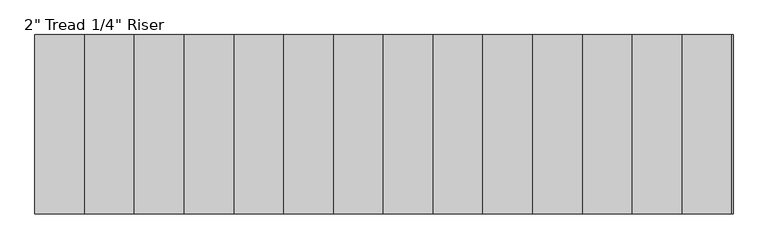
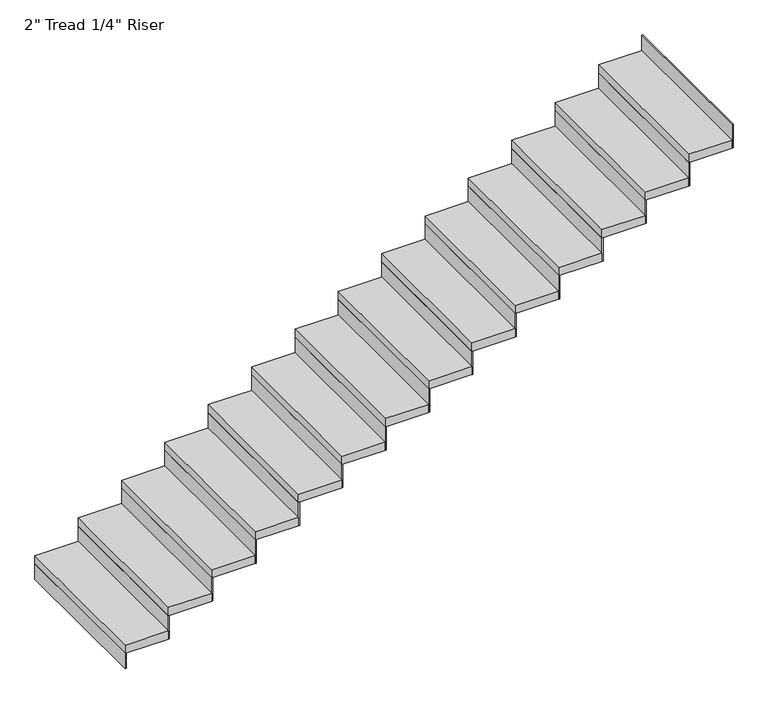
"""IFC4 building model written with IfcOpenShell, lengths in millimetres: stair flight geometry."""

from ifc_helpers import new_model, si_unit, frame, origin, origin_with_axes, place, context, project, spatial, polyline, outline, extrude, source, transform, mapped, element, save


def stair_flight_8b4d4a7e(model_context):
    return source(origin(), model_context, "Body", "SweptSolid", [
        extrude(outline(polyline([(46401.0741768, 28700.5361774), (46394.7241768, 28700.5361774), (46394.7241768, 29614.9361774), (46401.0741768, 29614.9361774), (46401.0741768, 28700.5361774)])), origin_with_axes(), (0.0, 0.0, 1.0), 94.3428571),
        extrude(outline(polyline([(46648.7241768, 29614.9361774), (46648.7241768, 28700.5361774), (46394.7241768, 28700.5361774), (46394.7241768, 29614.9361774), (46648.7241768, 29614.9361774)])), frame((0.0, 0.0, 94.3428571), z_axis=(0.0, 0.0, 1.0), x_axis=(1.0, 0.0, 0.0)), (0.0, 0.0, 1.0), 50.8),
        extrude(outline(polyline([(46655.0741768, 28700.5361774), (46648.7241768, 28700.5361774), (46648.7241768, 29614.9361774), (46655.0741768, 29614.9361774), (46655.0741768, 28700.5361774)])), frame((0.0, 0.0, 94.3428571), z_axis=(0.0, 0.0, 1.0), x_axis=(1.0, 0.0, 0.0)), (0.0, 0.0, 1.0), 145.1428571),
        extrude(outline(polyline([(46902.7241768, 29614.9361774), (46902.7241768, 28700.5361774), (46648.7241768, 28700.5361774), (46648.7241768, 29614.9361774), (46902.7241768, 29614.9361774)])), frame((0.0, 0.0, 239.4857143), z_axis=(0.0, 0.0, 1.0), x_axis=(1.0, 0.0, 0.0)), (0.0, 0.0, 1.0), 50.8),
        extrude(outline(polyline([(46909.0741768, 28700.5361774), (46902.7241768, 28700.5361774), (46902.7241768, 29614.9361774), (46909.0741768, 29614.9361774), (46909.0741768, 28700.5361774)])), frame((0.0, 0.0, 239.4857143), z_axis=(0.0, 0.0, 1.0), x_axis=(1.0, 0.0, 0.0)), (0.0, 0.0, 1.0), 145.1428571),
        extrude(outline(polyline([(47156.7241768, 29614.9361774), (47156.7241768, 28700.5361774), (46902.7241768, 28700.5361774), (46902.7241768, 29614.9361774), (47156.7241768, 29614.9361774)])), frame((0.0, 0.0, 384.6285714), z_axis=(0.0, 0.0, 1.0), x_axis=(1.0, 0.0, 0.0)), (0.0, 0.0, 1.0), 50.8),
        extrude(outline(polyline([(47163.0741768, 28700.5361774), (47156.7241768, 28700.5361774), (47156.7241768, 29614.9361774), (47163.0741768, 29614.9361774), (47163.0741768, 28700.5361774)])), frame((0.0, 0.0, 384.6285714), z_axis=(0.0, 0.0, 1.0), x_axis=(1.0, 0.0, 0.0)), (0.0, 0.0, 1.0), 145.1428571),
        extrude(outline(polyline([(47410.7241768, 29614.9361774), (47410.7241768, 28700.5361774), (47156.7241768, 28700.5361774), (47156.7241768, 29614.9361774), (47410.7241768, 29614.9361774)])), frame((0.0, 0.0, 529.7714286), z_axis=(0.0, 0.0, 1.0), x_axis=(1.0, 0.0, 0.0)), (0.0, 0.0, 1.0), 50.8),
        extrude(outline(polyline([(47417.0741768, 28700.5361774), (47410.7241768, 28700.5361774), (47410.7241768, 29614.9361774), (47417.0741768, 29614.9361774), (47417.0741768, 28700.5361774)])), frame((0.0, 0.0, 529.7714286), z_axis=(0.0, 0.0, 1.0), x_axis=(1.0, 0.0, 0.0)), (0.0, 0.0, 1.0), 145.1428571),
        extrude(outline(polyline([(47664.7241768, 29614.9361774), (47664.7241768, 28700.5361774), (47410.7241768, 28700.5361774), (47410.7241768, 29614.9361774), (47664.7241768, 29614.9361774)])), frame((0.0, 0.0, 674.9142857), z_axis=(0.0, 0.0, 1.0), x_axis=(1.0, 0.0, 0.0)), (0.0, 0.0, 1.0), 50.8),
        extrude(outline(polyline([(47671.0741768, 28700.5361774), (47664.7241768, 28700.5361774), (47664.7241768, 29614.9361774), (47671.0741768, 29614.9361774), (47671.0741768, 28700.5361774)])), frame((0.0, 0.0, 674.9142857), z_axis=(0.0, 0.0, 1.0), x_axis=(1.0, 0.0, 0.0)), (0.0, 0.0, 1.0), 145.1428571),
        extrude(outline(polyline([(47918.7241768, 29614.9361774), (47918.7241768, 28700.5361774), (47664.7241768, 28700.5361774), (47664.7241768, 29614.9361774), (47918.7241768, 29614.9361774)])), frame((0.0, 0.0, 820.0571429), z_axis=(0.0, 0.0, 1.0), x_axis=(1.0, 0.0, 0.0)), (0.0, 0.0, 1.0), 50.8),
        extrude(outline(polyline([(47925.0741768, 28700.5361774), (47918.7241768, 28700.5361774), (47918.7241768, 29614.9361774), (47925.0741768, 29614.9361774), (47925.0741768, 28700.5361774)])), frame((0.0, 0.0, 820.0571429), z_axis=(0.0, 0.0, 1.0), x_axis=(1.0, 0.0, 0.0)), (0.0, 0.0, 1.0), 145.1428571),
        extrude(outline(polyline([(48172.7241768, 29614.9361774), (48172.7241768, 28700.5361774), (47918.7241768, 28700.5361774), (47918.7241768, 29614.9361774), (48172.7241768, 29614.9361774)])), frame((0.0, 0.0, 965.2), z_axis=(0.0, 0.0, 1.0), x_axis=(1.0, 0.0, 0.0)), (0.0, 0.0, 1.0), 50.8),
        extrude(outline(polyline([(48179.0741768, 28700.5361774), (48172.7241768, 28700.5361774), (48172.7241768, 29614.9361774), (48179.0741768, 29614.9361774), (48179.0741768, 28700.5361774)])), frame((0.0, 0.0, 965.2), z_axis=(0.0, 0.0, 1.0), x_axis=(1.0, 0.0, 0.0)), (0.0, 0.0, 1.0), 145.1428571),
        extrude(outline(polyline([(48426.7241768, 29614.9361774), (48426.7241768, 28700.5361774), (48172.7241768, 28700.5361774), (48172.7241768, 29614.9361774), (48426.7241768, 29614.9361774)])), frame((0.0, 0.0, 1110.3428571), z_axis=(0.0, 0.0, 1.0), x_axis=(1.0, 0.0, 0.0)), (0.0, 0.0, 1.0), 50.8),
        extrude(outline(polyline([(48433.0741768, 28700.5361774), (48426.7241768, 28700.5361774), (48426.7241768, 29614.9361774), (48433.0741768, 29614.9361774), (48433.0741768, 28700.5361774)])), frame((0.0, 0.0, 1110.3428571), z_axis=(0.0, 0.0, 1.0), x_axis=(1.0, 0.0, 0.0)), (0.0, 0.0, 1.0), 145.1428571),
        extrude(outline(polyline([(48680.7241768, 29614.9361774), (48680.7241768, 28700.5361774), (48426.7241768, 28700.5361774), (48426.7241768, 29614.9361774), (48680.7241768, 29614.9361774)])), frame((0.0, 0.0, 1255.4857143), z_axis=(0.0, 0.0, 1.0), x_axis=(1.0, 0.0, 0.0)), (0.0, 0.0, 1.0), 50.8),
        extrude(outline(polyline([(48687.0741768, 28700.5361774), (48680.7241768, 28700.5361774), (48680.7241768, 29614.9361774), (48687.0741768, 29614.9361774), (48687.0741768, 28700.5361774)])), frame((0.0, 0.0, 1255.4857143), z_axis=(0.0, 0.0, 1.0), x_axis=(1.0, 0.0, 0.0)), (0.0, 0.0, 1.0), 145.1428571),
        extrude(outline(polyline([(48934.7241768, 29614.9361774), (48934.7241768, 28700.5361774), (48680.7241768, 28700.5361774), (48680.7241768, 29614.9361774), (48934.7241768, 29614.9361774)])), frame((0.0, 0.0, 1400.6285714), z_axis=(0.0, 0.0, 1.0), x_axis=(1.0, 0.0, 0.0)), (0.0, 0.0, 1.0), 50.8),
        extrude(outline(polyline([(48941.0741768, 28700.5361774), (48934.7241768, 28700.5361774), (48934.7241768, 29614.9361774), (48941.0741768, 29614.9361774), (48941.0741768, 28700.5361774)])), frame((0.0, 0.0, 1400.6285714), z_axis=(0.0, 0.0, 1.0), x_axis=(1.0, 0.0, 0.0)), (0.0, 0.0, 1.0), 145.1428571),
        extrude(outline(polyline([(49188.7241768, 29614.9361774), (49188.7241768, 28700.5361774), (48934.7241768, 28700.5361774), (48934.7241768, 29614.9361774), (49188.7241768, 29614.9361774)])), frame((0.0, 0.0, 1545.7714286), z_axis=(0.0, 0.0, 1.0), x_axis=(1.0, 0.0, 0.0)), (0.0, 0.0, 1.0), 50.8),
        extrude(outline(polyline([(49195.0741768, 28700.5361774), (49188.7241768, 28700.5361774), (49188.7241768, 29614.9361774), (49195.0741768, 29614.9361774), (49195.0741768, 28700.5361774)])), frame((0.0, 0.0, 1545.7714286), z_axis=(0.0, 0.0, 1.0), x_axis=(1.0, 0.0, 0.0)), (0.0, 0.0, 1.0), 145.1428571),
        extrude(outline(polyline([(49442.7241768, 29614.9361774), (49442.7241768, 28700.5361774), (49188.7241768, 28700.5361774), (49188.7241768, 29614.9361774), (49442.7241768, 29614.9361774)])), frame((0.0, 0.0, 1690.9142857), z_axis=(0.0, 0.0, 1.0), x_axis=(1.0, 0.0, 0.0)), (0.0, 0.0, 1.0), 50.8),
        extrude(outline(polyline([(49449.0741768, 28700.5361774), (49442.7241768, 28700.5361774), (49442.7241768, 29614.9361774), (49449.0741768, 29614.9361774), (49449.0741768, 28700.5361774)])), frame((0.0, 0.0, 1690.9142857), z_axis=(0.0, 0.0, 1.0), x_axis=(1.0, 0.0, 0.0)), (0.0, 0.0, 1.0), 145.1428571),
        extrude(outline(polyline([(49696.7241768, 29614.9361774), (49696.7241768, 28700.5361774), (49442.7241768, 28700.5361774), (49442.7241768, 29614.9361774), (49696.7241768, 29614.9361774)])), frame((0.0, 0.0, 1836.0571429), z_axis=(0.0, 0.0, 1.0), x_axis=(1.0, 0.0, 0.0)), (0.0, 0.0, 1.0), 50.8),
        extrude(outline(polyline([(49703.0741768, 28700.5361774), (49696.7241768, 28700.5361774), (49696.7241768, 29614.9361774), (49703.0741768, 29614.9361774), (49703.0741768, 28700.5361774)])), frame((0.0, 0.0, 1836.0571429), z_axis=(0.0, 0.0, 1.0), x_axis=(1.0, 0.0, 0.0)), (0.0, 0.0, 1.0), 145.1428571),
        extrude(outline(polyline([(49957.0741768, 28700.5361774), (49950.7241768, 28700.5361774), (49950.7241768, 29614.9361774), (49957.0741768, 29614.9361774), (49957.0741768, 28700.5361774)])), frame((0.0, 0.0, 1981.2), z_axis=(0.0, 0.0, 1.0), x_axis=(1.0, 0.0, 0.0)), (0.0, 0.0, 1.0), 145.1428571),
        extrude(outline(polyline([(49950.7241768, 29614.9361774), (49950.7241768, 28700.5361774), (49696.7241768, 28700.5361774), (49696.7241768, 29614.9361774), (49950.7241768, 29614.9361774)])), frame((0.0, 0.0, 1981.2), z_axis=(0.0, 0.0, 1.0), x_axis=(1.0, 0.0, 0.0)), (0.0, 0.0, 1.0), 50.8),
    ])


if __name__ == "__main__":
    model = new_model("IFC4")
    model_context = context("Model", 3, world=origin())
    ifc_project = project(units=[si_unit("LENGTHUNIT", "METRE", prefix="MILLI")], contexts=[model_context])
    site = spatial("IfcSite", under=ifc_project)
    building = spatial("IfcBuilding", under=site)
    placement = place(None, origin())
    stair_flight_shape = stair_flight_8b4d4a7e(model_context)
    element("IfcStairFlight", 1, ObjectType="2\" Tread 1/4\" Riser", at=placement, inside=building, context=model_context, shape_type="MappedRepresentation", body=[
        mapped(stair_flight_shape, transform((0.0, 0.0, 0.0), x_axis=(1.0, 0.0, 0.0), y_axis=(0.0, 1.0, 0.0), z_axis=(0.0, 0.0, 1.0))),
    ])
    save(model, "model.ifc")
